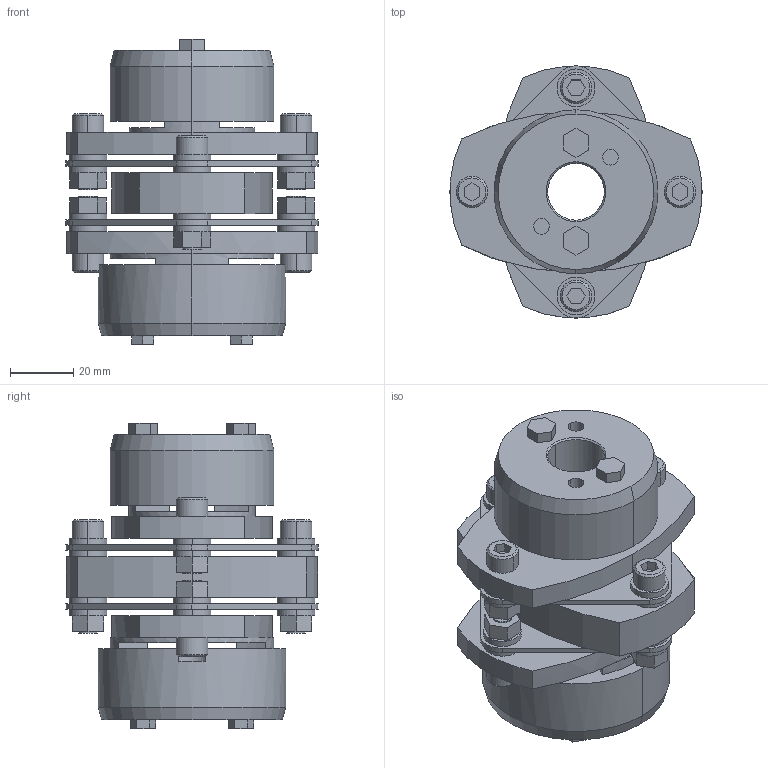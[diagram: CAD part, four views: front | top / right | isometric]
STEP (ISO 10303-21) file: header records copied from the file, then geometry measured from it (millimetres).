
FILE_DESCRIPTION((''),'2;1');
FILE_NAME('LCD-80T7-18×32.stp','2011-09-15T13:23:18',(''),(''),'AutoCAD STEP 2000i','AutoCAD 2000i',', , ');
FILE_SCHEMA(('CONFIG_CONTROL_DESIGN'));
Length unit declared in the file: millimetre
Products named in the file (11): LCD-80T7-17×32; 忣兜1; LC80T7-T032; LC80T7-T030; LC80T7-T028; LC80T7-T024; LC80T7-T022; LC80T7-T019; LC80T7-T017-1; LC80T7-T017; LCD80-ITA
Assembly tree (10 placements, depth 2):
  LCD-80T7-17×32
    忣兜1
    LC80T7-T032
    LC80T7-T030
    LC80T7-T028
    LC80T7-T024
    LC80T7-T022
    LC80T7-T019
    LC80T7-T017-1
    LC80T7-T017
    LCD80-ITA
Bounding box: 80 x 79.95 x 96.8 mm (x, y, z)
Volume: 181503.7 mm3; surface area: 57744.9 mm2
Topology: 1 solids, 1 shells, 327 faces, 800 edges, 524 vertices
Faces by surface type: plane 181, cylinder 122, cone 24
Entity records: 9953 total; most frequent: DIRECTION 1772, CARTESIAN_POINT 1662, ORIENTED_EDGE 1600, EDGE_CURVE 800, AXIS2_PLACEMENT_3D 634, VERTEX_POINT 524, VECTOR 504, LINE 504
